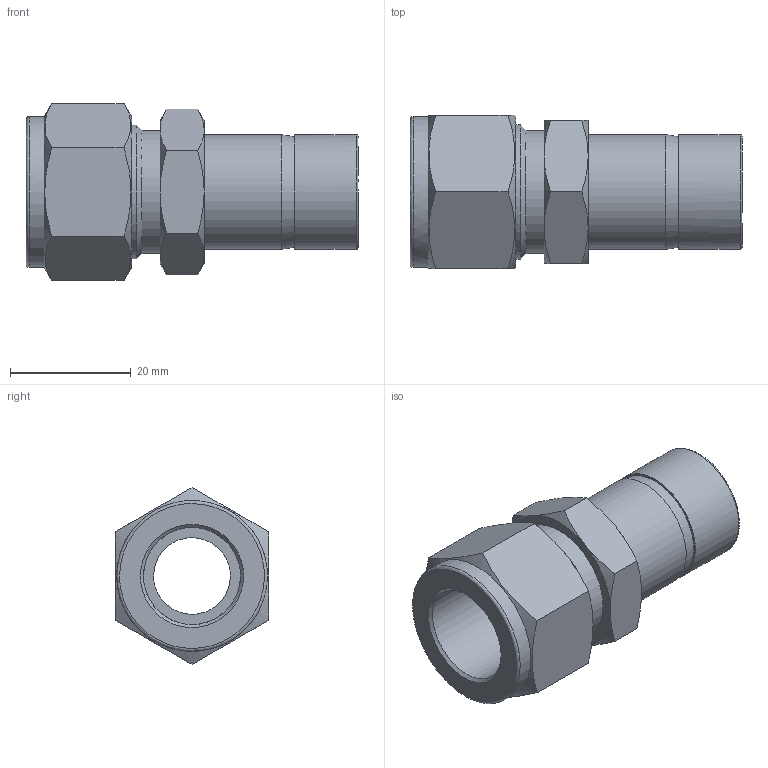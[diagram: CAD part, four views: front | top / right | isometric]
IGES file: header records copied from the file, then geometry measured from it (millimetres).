
Global section: file name: SR-10-12; native system: Autodesk Inventor 2016; preprocessor: unknown; author: DESIGNPC2; date: 20151113.082708; units: millimetre
Bounding box: 55.03 x 25.4 x 29.33 mm (x, y, z)
Volume: 12062.8 mm3; surface area: 7561.2 mm2
Topology: 1 solids, 1 shells, 47 faces, 122 edges, 82 vertices
Faces by surface type: bspline 47
